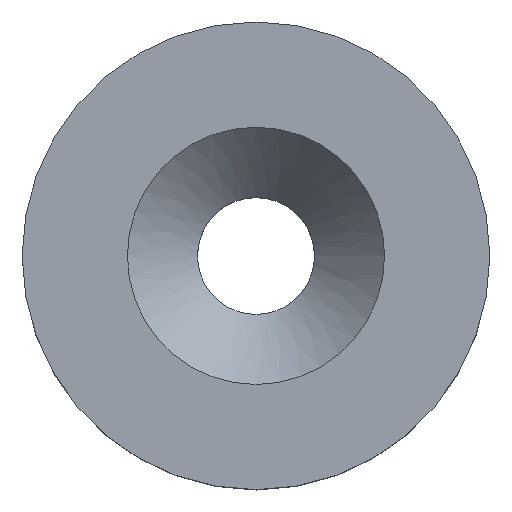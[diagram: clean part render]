
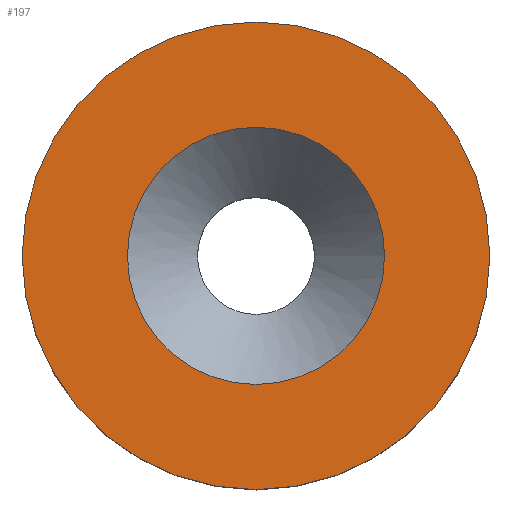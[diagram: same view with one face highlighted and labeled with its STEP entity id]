
A CAD part, top view. The second image highlights one B-rep face of the part: STEP entity #197.
In plain terms, the highlighted planar face has unit normal (0, 0, 1).
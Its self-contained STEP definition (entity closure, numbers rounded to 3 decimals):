
#94=CARTESIAN_POINT('',(2.75,0.0,4.0));
#95=VERTEX_POINT('',#94);
#96=CARTESIAN_POINT('',(0.0,0.0,4.0));
#97=DIRECTION('',(0.0,0.0,-1.0));
#98=DIRECTION('',(1.0,0.0,0.0));
#99=AXIS2_PLACEMENT_3D('',#96,#97,#98);
#100=CIRCLE('',#99,2.75);
#101=EDGE_CURVE('',#95,#95,#100,.T.);
#163=CARTESIAN_POINT('',(5.0,0.,4.0));
#164=VERTEX_POINT('',#163);
#165=CARTESIAN_POINT('',(0.0,0.0,4.0));
#166=DIRECTION('',(0.0,0.0,-1.0));
#167=DIRECTION('',(-1.0,0.0,0.0));
#168=AXIS2_PLACEMENT_3D('',#165,#166,#167);
#169=CIRCLE('',#168,5.0);
#170=EDGE_CURVE('',#164,#164,#169,.T.);
#186=CARTESIAN_POINT('',(0.0,0.0,4.0));
#187=DIRECTION('',(0.0,0.0,-1.0));
#188=DIRECTION('',(-1.0,0.0,0.0));
#189=AXIS2_PLACEMENT_3D('',#186,#187,#188);
#190=PLANE('',#189);
#191=ORIENTED_EDGE('',*,*,#170,.F.);
#192=EDGE_LOOP('',(#191));
#193=FACE_OUTER_BOUND('',#192,.T.);
#194=ORIENTED_EDGE('',*,*,#101,.T.);
#195=EDGE_LOOP('',(#194));
#196=FACE_BOUND('',#195,.T.);
#197=ADVANCED_FACE('',(#193,#196),#190,.F.);
